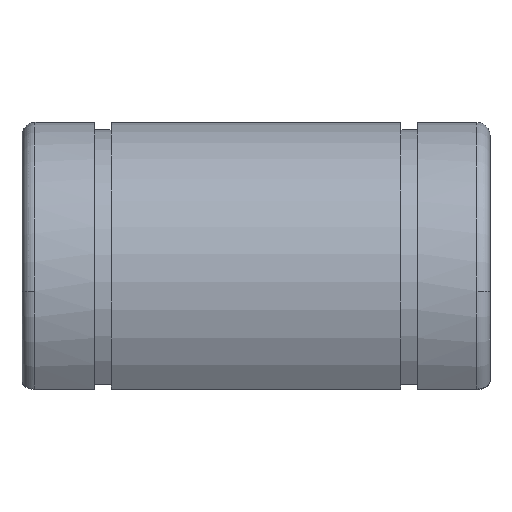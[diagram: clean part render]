
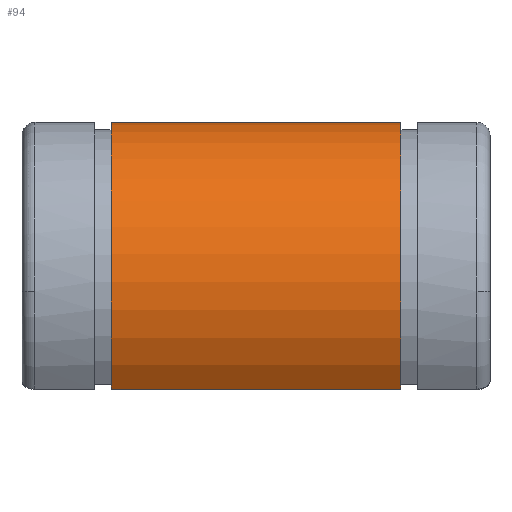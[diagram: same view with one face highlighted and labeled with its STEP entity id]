
A CAD part, top view. The second image highlights one B-rep face of the part: STEP entity #94.
In plain terms, the highlighted cylindrical face has radius 13 mm (diameter 26 mm), a partial arc.
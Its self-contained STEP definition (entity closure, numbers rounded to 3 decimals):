
#94 = ADVANCED_FACE( '', ( #152 ), #153, .T. );
#152 = FACE_OUTER_BOUND( '', #228, .T. );
#153 = CYLINDRICAL_SURFACE( '', #229, 13. );
#228 = EDGE_LOOP( '', ( #443, #444, #445, #446 ) );
#229 = AXIS2_PLACEMENT_3D( '', #447, #448, #449 );
#443 = ORIENTED_EDGE( '', *, *, #642, .T. );
#444 = ORIENTED_EDGE( '', *, *, #686, .F. );
#445 = ORIENTED_EDGE( '', *, *, #670, .T. );
#446 = ORIENTED_EDGE( '', *, *, #685, .T. );
#447 = CARTESIAN_POINT( '', ( 0., 0., 0. ) );
#448 = DIRECTION( '', ( 1., 0., 0. ) );
#449 = DIRECTION( '', ( 0., 1., 0. ) );
#642 = EDGE_CURVE( '', #792, #793, #794, .T. );
#670 = EDGE_CURVE( '', #844, #842, #845, .T. );
#685 = EDGE_CURVE( '', #842, #792, #865, .T. );
#686 = EDGE_CURVE( '', #844, #793, #866, .T. );
#792 = VERTEX_POINT( '', #1022 );
#793 = VERTEX_POINT( '', #1023 );
#794 = LINE( '', #1024, #1025 );
#842 = VERTEX_POINT( '', #1111 );
#844 = VERTEX_POINT( '', #1114 );
#845 = LINE( '', #1115, #1116 );
#865 = CIRCLE( '', #1163, 13. );
#866 = CIRCLE( '', #1164, 13. );
#1022 = CARTESIAN_POINT( '', ( 11.15, 13., 0. ) );
#1023 = CARTESIAN_POINT( '', ( -11.15, 13., 0. ) );
#1024 = CARTESIAN_POINT( '', ( 0., 13., 0. ) );
#1025 = VECTOR( '', #1282, 1. );
#1111 = CARTESIAN_POINT( '', ( 11.15, -7.525, 10.601 ) );
#1114 = CARTESIAN_POINT( '', ( -11.15, -7.525, 10.601 ) );
#1115 = CARTESIAN_POINT( '', ( 0., -7.525, 10.601 ) );
#1116 = VECTOR( '', #1317, 1. );
#1163 = AXIS2_PLACEMENT_3D( '', #1337, #1338, #1339 );
#1164 = AXIS2_PLACEMENT_3D( '', #1340, #1341, #1342 );
#1282 = DIRECTION( '', ( -1., 0., 0. ) );
#1317 = DIRECTION( '', ( 1., 0., 0. ) );
#1337 = CARTESIAN_POINT( '', ( 11.15, 0., 0. ) );
#1338 = DIRECTION( '', ( -1., 0., 0. ) );
#1339 = DIRECTION( '', ( 0., 1., 0. ) );
#1340 = CARTESIAN_POINT( '', ( -11.15, 0., 0. ) );
#1341 = DIRECTION( '', ( -1., 0., 0. ) );
#1342 = DIRECTION( '', ( 0., 1., 0. ) );
